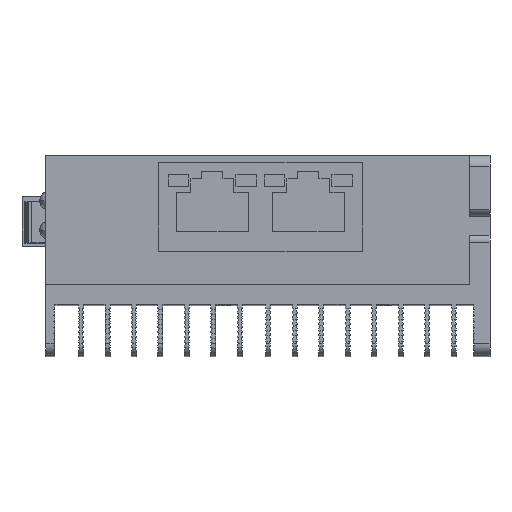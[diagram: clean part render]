
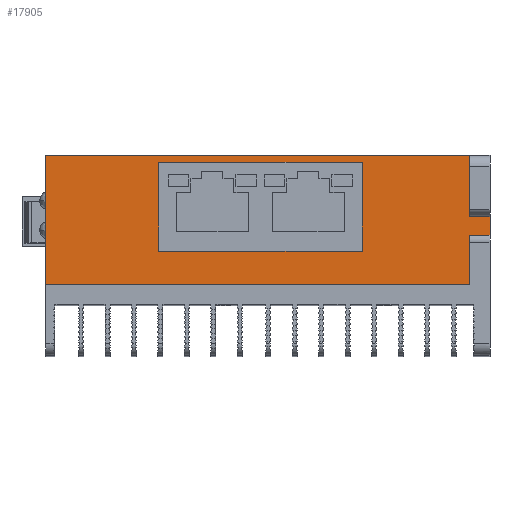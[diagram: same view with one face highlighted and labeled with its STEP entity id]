
A CAD part, top view. The second image highlights one B-rep face of the part: STEP entity #17905.
In plain terms, the highlighted planar face has unit normal (0, 0, 1).
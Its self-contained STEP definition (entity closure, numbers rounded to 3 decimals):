
#4539=DIRECTION('',(0.,1.,0.));
#4540=VECTOR('',#4539,3.162);
#4541=CARTESIAN_POINT('',(0.,11.719,61.25));
#4542=LINE('',#4541,#4540);
#4582=DIRECTION('',(0.,-1.,0.));
#4583=VECTOR('',#4582,10.419);
#4584=CARTESIAN_POINT('',(-3.4,25.3,61.25));
#4585=LINE('',#4584,#4583);
#4604=DIRECTION('',(0.,-1.,0.));
#4605=VECTOR('',#4604,8.419);
#4606=CARTESIAN_POINT('',(-3.4,11.719,61.25));
#4607=LINE('',#4606,#4605);
#4652=DIRECTION('',(0.,1.,0.));
#4653=VECTOR('',#4652,22.);
#4654=CARTESIAN_POINT('',(-75.5,3.3,61.25));
#4655=LINE('',#4654,#4653);
#4656=DIRECTION('',(1.,0.,0.));
#4657=VECTOR('',#4656,34.6);
#4658=CARTESIAN_POINT('',(-56.3,9.,61.25));
#4659=LINE('',#4658,#4657);
#4660=DIRECTION('',(0.,1.,0.));
#4661=VECTOR('',#4660,15.1);
#4662=CARTESIAN_POINT('',(-21.7,9.,61.25));
#4663=LINE('',#4662,#4661);
#4664=DIRECTION('',(-1.,0.,0.));
#4665=VECTOR('',#4664,34.6);
#4666=CARTESIAN_POINT('',(-21.7,24.1,61.25));
#4667=LINE('',#4666,#4665);
#4668=DIRECTION('',(0.,-1.,0.));
#4669=VECTOR('',#4668,15.1);
#4670=CARTESIAN_POINT('',(-56.3,24.1,61.25));
#4671=LINE('',#4670,#4669);
#4672=DIRECTION('',(-1.,0.,0.));
#4673=VECTOR('',#4672,3.4);
#4674=CARTESIAN_POINT('',(0.,14.881,61.25));
#4675=LINE('',#4674,#4673);
#4680=DIRECTION('',(-1.,0.,0.));
#4681=VECTOR('',#4680,3.4);
#4682=CARTESIAN_POINT('',(0.,11.719,61.25));
#4683=LINE('',#4682,#4681);
#4758=DIRECTION('',(-1.,0.,0.));
#4759=VECTOR('',#4758,72.1);
#4760=CARTESIAN_POINT('',(-3.4,3.3,61.25));
#4761=LINE('',#4760,#4759);
#9241=DIRECTION('',(1.,0.,0.));
#9242=VECTOR('',#9241,72.1);
#9243=CARTESIAN_POINT('',(-75.5,25.3,61.25));
#9244=LINE('',#9243,#9242);
#13694=CARTESIAN_POINT('',(-75.5,25.3,61.25));
#13696=VERTEX_POINT('',#13694);
#13697=CARTESIAN_POINT('',(-3.4,25.3,61.25));
#13698=CARTESIAN_POINT('',(-3.4,14.881,61.25));
#13699=VERTEX_POINT('',#13697);
#13700=VERTEX_POINT('',#13698);
#13701=CARTESIAN_POINT('',(-3.4,11.719,61.25));
#13702=CARTESIAN_POINT('',(-3.4,3.3,61.25));
#13703=VERTEX_POINT('',#13701);
#13704=VERTEX_POINT('',#13702);
#13713=CARTESIAN_POINT('',(-75.5,3.3,61.25));
#13714=VERTEX_POINT('',#13713);
#13737=CARTESIAN_POINT('',(0.,14.881,61.25));
#13738=VERTEX_POINT('',#13737);
#13739=CARTESIAN_POINT('',(0.,11.719,61.25));
#13740=VERTEX_POINT('',#13739);
#14149=CARTESIAN_POINT('',(-56.3,9.,61.25));
#14150=CARTESIAN_POINT('',(-21.7,9.,61.25));
#14151=VERTEX_POINT('',#14149);
#14152=VERTEX_POINT('',#14150);
#14153=CARTESIAN_POINT('',(-21.7,24.1,61.25));
#14154=VERTEX_POINT('',#14153);
#14155=CARTESIAN_POINT('',(-56.3,24.1,61.25));
#14156=VERTEX_POINT('',#14155);
#17875=CARTESIAN_POINT('',(-75.5,3.3,61.25));
#17876=DIRECTION('',(0.,0.,1.));
#17877=DIRECTION('',(1.,0.,0.));
#17878=AXIS2_PLACEMENT_3D('',#17875,#17876,#17877);
#17879=PLANE('',#17878);
#17880=ORIENTED_EDGE('',*,*,#17812,.T.);
#17882=ORIENTED_EDGE('',*,*,#17881,.F.);
#17883=ORIENTED_EDGE('',*,*,#17737,.F.);
#17885=ORIENTED_EDGE('',*,*,#17884,.T.);
#17886=ORIENTED_EDGE('',*,*,#17831,.T.);
#17888=ORIENTED_EDGE('',*,*,#17887,.T.);
#17890=ORIENTED_EDGE('',*,*,#17889,.T.);
#17892=ORIENTED_EDGE('',*,*,#17891,.T.);
#17893=EDGE_LOOP('',(#17880,#17882,#17883,#17885,#17886,#17888,#17890,#17892));
#17894=FACE_OUTER_BOUND('',#17893,.F.);
#17896=ORIENTED_EDGE('',*,*,#17895,.T.);
#17898=ORIENTED_EDGE('',*,*,#17897,.T.);
#17900=ORIENTED_EDGE('',*,*,#17899,.T.);
#17902=ORIENTED_EDGE('',*,*,#17901,.T.);
#17903=EDGE_LOOP('',(#17896,#17898,#17900,#17902));
#17904=FACE_BOUND('',#17903,.F.);
#17905=ADVANCED_FACE('',(#17894,#17904),#17879,.T.);
#17737=EDGE_CURVE('',#13740,#13738,#4542,.T.);
#17812=EDGE_CURVE('',#13699,#13700,#4585,.T.);
#17831=EDGE_CURVE('',#13703,#13704,#4607,.T.);
#17881=EDGE_CURVE('',#13738,#13700,#4675,.T.);
#17884=EDGE_CURVE('',#13740,#13703,#4683,.T.);
#17887=EDGE_CURVE('',#13704,#13714,#4761,.T.);
#17889=EDGE_CURVE('',#13714,#13696,#4655,.T.);
#17891=EDGE_CURVE('',#13696,#13699,#9244,.T.);
#17895=EDGE_CURVE('',#14151,#14152,#4659,.T.);
#17897=EDGE_CURVE('',#14152,#14154,#4663,.T.);
#17899=EDGE_CURVE('',#14154,#14156,#4667,.T.);
#17901=EDGE_CURVE('',#14156,#14151,#4671,.T.);
